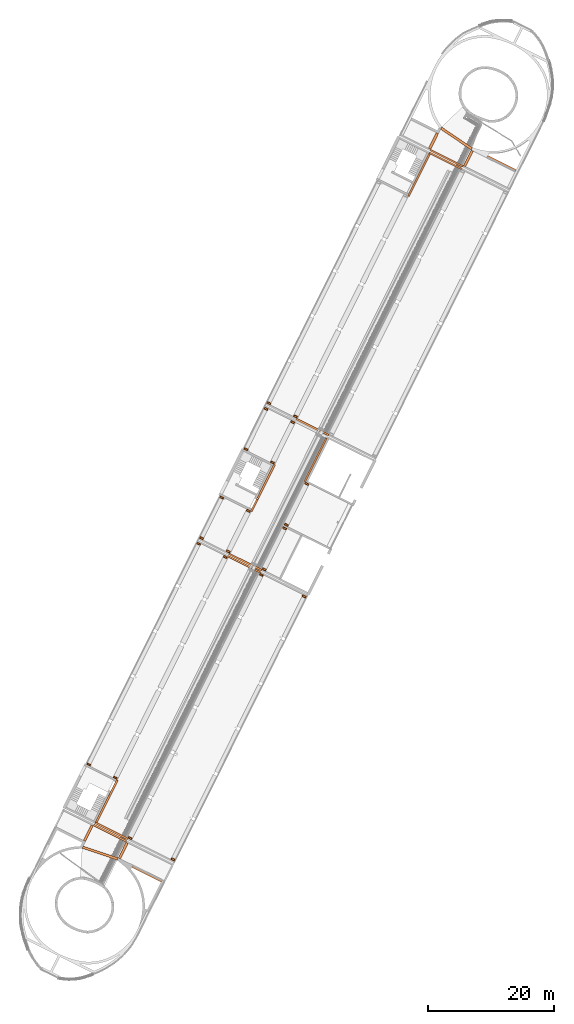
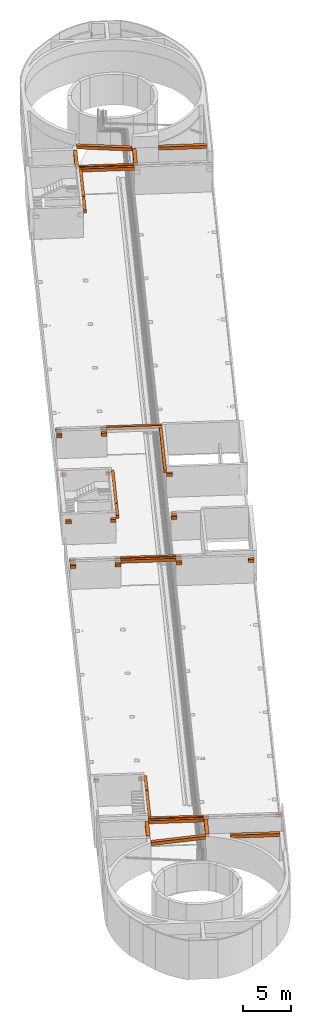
# One storey, part 46 of 47: 41 proxies.
"""IFC2X3 building model written with IfcOpenShell, lengths in metres."""

from ifc_helpers import new_model, entity, si_unit, converted_unit, derived_unit, direction, frame, frame_2d, origin, origin_2d_with_axis, place, context, subcontext, project, spatial, polyline, circle_curve, parameter, trimmed, segment, composite_curve, rectangle, outline, extrude, source, transform, mapped, material, element, save


model = new_model("IFC2X3")

# Units and contexts
model_context = context("Model", 3, precision=1e-05, world=origin(), true_north=direction((0.894925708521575, 0.446215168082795)))
context_of_model = context(None, 3, precision=1e-05, world=origin(), true_north=direction((0.894925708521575, 0.446215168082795)))
body_context = subcontext(model_context, "Body", "Model", "MODEL_VIEW")
ifc_project = project(units=[si_unit("LENGTHUNIT", "METRE"), si_unit("AREAUNIT", "SQUARE_METRE"), si_unit("VOLUMEUNIT", "CUBIC_METRE"), converted_unit("PLANEANGLEUNIT", "DEGREE", entity("IfcRatioMeasure", 0.0174532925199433), si_unit("PLANEANGLEUNIT", "RADIAN"), dimensions=[0, 0, 0, 0, 0, 0, 0]), si_unit("MASSUNIT", "GRAM", prefix="KILO"), si_unit("TIMEUNIT", "SECOND"), si_unit("FREQUENCYUNIT", "HERTZ"), si_unit("THERMODYNAMICTEMPERATUREUNIT", "DEGREE_CELSIUS"), derived_unit("THERMALTRANSMITTANCEUNIT", [(si_unit("MASSUNIT", "GRAM", prefix="KILO"), 1), (si_unit("THERMODYNAMICTEMPERATUREUNIT", "KELVIN"), -1), (si_unit("TIMEUNIT", "SECOND"), -3)]), derived_unit("VOLUMETRICFLOWRATEUNIT", [(si_unit("LENGTHUNIT", "METRE"), 3), (si_unit("TIMEUNIT", "SECOND"), -1)]), si_unit("ELECTRICCURRENTUNIT", "AMPERE"), si_unit("ELECTRICVOLTAGEUNIT", "VOLT"), si_unit("POWERUNIT", "WATT"), si_unit("FORCEUNIT", "NEWTON", prefix="KILO"), si_unit("ILLUMINANCEUNIT", "LUX"), si_unit("LUMINOUSFLUXUNIT", "LUMEN"), si_unit("LUMINOUSINTENSITYUNIT", "CANDELA"), si_unit("PRESSUREUNIT", "PASCAL")], contexts=[model_context, context_of_model])

# Site, building, storey
site_placement = place(None, frame((218.228324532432, 584.720189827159, 0.0), z_axis=(0.0, 0.0, 1.0), x_axis=(0.446215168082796, 0.894925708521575, 0.0)))
site = spatial("IfcSite", under=ifc_project, at=site_placement, Name="Default", CompositionType="ELEMENT")
building_placement = place(site_placement, origin())
building = spatial("IfcBuilding", under=site, at=building_placement, CompositionType="ELEMENT")
storey_placement = place(building_placement, frame((0.0, 0.0, 4.69)))
storey = spatial("IfcBuildingStorey", under=building, at=storey_placement, Name="1 - Piano Primo", CompositionType="ELEMENT", Elevation=4.69)

# Proxies
ifc_material = material(Name="Calcestruzzo, gettato in opera")
shared_shape_1 = source(origin(), body_context, "Body", "SweptSolid", [
    extrude(rectangle(XDim=0.300000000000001, YDim=0.6, at=frame_2d((0.0, 5.27355936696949e-16), x_axis=(1.0, 0.0))), frame((0.150000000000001, 0.300000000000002, 0.0), z_axis=(0.0, 0.0, 1.0), x_axis=(-1.0, 0.0, 0.0)), (0.0, 0.0, 1.0), 0.4),
])
proxy_1_placement = place(storey_placement, frame((-52.6994493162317, 5.51892100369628, 2.86)))
element("IfcBuildingElementProxy", 1, at=proxy_1_placement, inside=storey, material=ifc_material, Name="Mensola C.A.25:Mensola C.A.", ObjectType="Mensola C.A.", CompositionType="ELEMENT", context=body_context, shape_type="MappedRepresentation", body=[
    mapped(shared_shape_1, transform((0.0, 0.0, 0.0), scale=1.0)),
])
shared_shape_2 = source(origin(), body_context, "Body", "SweptSolid", [
    extrude(rectangle(XDim=0.300000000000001, YDim=0.6, at=frame_2d((0.0, 5.27355936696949e-16), x_axis=(1.0, 0.0))), frame((0.150000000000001, 0.300000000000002, 0.0), z_axis=(0.0, 0.0, 1.0), x_axis=(-1.0, 0.0, 0.0)), (0.0, 0.0, 1.0), 0.4),
])
proxy_2_placement = place(storey_placement, frame((-13.4843716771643, 5.51892100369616, 2.86)))
element("IfcBuildingElementProxy", 2, at=proxy_2_placement, inside=storey, material=ifc_material, Name="Mensola C.A.30:Mensola C.A.", ObjectType="Mensola C.A.", CompositionType="ELEMENT", context=body_context, shape_type="MappedRepresentation", body=[
    mapped(shared_shape_2, transform((0.0, 0.0, 0.0), scale=1.0)),
])
shared_shape_3 = source(origin(), body_context, "Body", "SweptSolid", [
    extrude(rectangle(XDim=0.300000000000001, YDim=0.6, at=frame_2d((0.0, 5.27355936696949e-16), x_axis=(1.0, 0.0))), frame((0.150000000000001, 0.300000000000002, 0.0), z_axis=(0.0, 0.0, 1.0), x_axis=(-1.0, 0.0, 0.0)), (0.0, 0.0, 1.0), 0.4),
])
proxy_3_placement = place(storey_placement, frame((3.314214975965, 5.5189210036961, 2.86)))
element("IfcBuildingElementProxy", 3, at=proxy_3_placement, inside=storey, material=ifc_material, Name="Mensola C.A.31:Mensola C.A.", ObjectType="Mensola C.A.", CompositionType="ELEMENT", context=body_context, shape_type="MappedRepresentation", body=[
    mapped(shared_shape_3, transform((0.0, 0.0, 0.0), scale=1.0)),
])
shared_shape_4 = source(origin(), body_context, "Body", "SweptSolid", [
    extrude(rectangle(XDim=0.300000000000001, YDim=0.6, at=frame_2d((0.0, 5.27355936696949e-16), x_axis=(1.0, 0.0))), frame((0.150000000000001, 0.300000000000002, 0.0), z_axis=(0.0, 0.0, 1.0), x_axis=(-1.0, 0.0, 0.0)), (0.0, 0.0, 1.0), 0.4),
])
proxy_4_placement = place(storey_placement, frame((11.4942149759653, 5.51892100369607, 2.86)))
element("IfcBuildingElementProxy", 4, at=proxy_4_placement, inside=storey, material=ifc_material, Name="Mensola C.A.32:Mensola C.A.", ObjectType="Mensola C.A.", CompositionType="ELEMENT", context=body_context, shape_type="MappedRepresentation", body=[
    mapped(shared_shape_4, transform((0.0, 0.0, 0.0), scale=1.0)),
])
shared_shape_5 = source(origin(), body_context, "Body", "SweptSolid", [
    extrude(rectangle(XDim=0.300000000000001, YDim=0.6, at=frame_2d((0.0, 5.27355936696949e-16), x_axis=(1.0, 0.0))), frame((0.150000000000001, 0.300000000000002, 0.0), z_axis=(0.0, 0.0, 1.0), x_axis=(-1.0, 0.0, 0.0)), (0.0, 0.0, 1.0), 0.4),
])
proxy_5_placement = place(storey_placement, frame((10.4942149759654, 5.51892100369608, 2.86)))
element("IfcBuildingElementProxy", 5, at=proxy_5_placement, inside=storey, material=ifc_material, Name="Mensola C.A.33:Mensola C.A.", ObjectType="Mensola C.A.", CompositionType="ELEMENT", context=body_context, shape_type="MappedRepresentation", body=[
    mapped(shared_shape_5, transform((0.0, 0.0, 0.0), scale=1.0)),
])
shared_shape_6 = source(origin(), body_context, "Body", "SweptSolid", [
    extrude(rectangle(XDim=0.300000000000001, YDim=0.6, at=frame_2d((0.0, 5.27355936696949e-16), x_axis=(1.0, 0.0))), frame((0.150000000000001, 0.300000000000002, 0.0), z_axis=(0.0, 0.0, 1.0), x_axis=(-1.0, 0.0, 0.0)), (0.0, 0.0, 1.0), 0.4),
])
proxy_6_placement = place(storey_placement, frame((-13.4843716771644, -13.2010789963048, 2.86)))
element("IfcBuildingElementProxy", 6, at=proxy_6_placement, inside=storey, material=ifc_material, Name="Mensola C.A.40:Mensola C.A.", ObjectType="Mensola C.A.", CompositionType="ELEMENT", context=body_context, shape_type="MappedRepresentation", body=[
    mapped(shared_shape_6, transform((0.0, 0.0, 0.0), scale=1.0)),
])
shared_shape_7 = source(origin(), body_context, "Body", "SweptSolid", [
    extrude(rectangle(XDim=0.300000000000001, YDim=0.6, at=frame_2d((0.0, 5.27355936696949e-16), x_axis=(1.0, 0.0))), frame((0.150000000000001, 0.300000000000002, 0.0), z_axis=(0.0, 0.0, 1.0), x_axis=(-1.0, 0.0, 0.0)), (0.0, 0.0, 1.0), 0.4),
])
proxy_7_placement = place(storey_placement, frame((-13.4843716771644, -5.60107899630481, 2.86)))
element("IfcBuildingElementProxy", 7, at=proxy_7_placement, inside=storey, material=ifc_material, Name="Mensola C.A.41:Mensola C.A.", ObjectType="Mensola C.A.", CompositionType="ELEMENT", context=body_context, shape_type="MappedRepresentation", body=[
    mapped(shared_shape_7, transform((0.0, 0.0, 0.0), scale=1.0)),
])
shared_shape_8 = source(origin(), body_context, "Body", "SweptSolid", [
    extrude(rectangle(XDim=0.300000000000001, YDim=0.6, at=frame_2d((0.0, 5.27355936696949e-16), x_axis=(1.0, 0.0))), frame((0.150000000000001, 0.300000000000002, 0.0), z_axis=(0.0, 0.0, 1.0), x_axis=(-1.0, 0.0, 0.0)), (0.0, 0.0, 1.0), 0.4),
])
proxy_8_placement = place(storey_placement, frame((-13.4843716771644, 0.798921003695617, 2.86)))
element("IfcBuildingElementProxy", 8, at=proxy_8_placement, inside=storey, material=ifc_material, Name="Mensola C.A.42:Mensola C.A.", ObjectType="Mensola C.A.", CompositionType="ELEMENT", context=body_context, shape_type="MappedRepresentation", body=[
    mapped(shared_shape_8, transform((0.0, 0.0, 0.0), scale=1.0)),
])
shared_shape_9 = source(origin(), body_context, "Body", "SweptSolid", [
    extrude(rectangle(XDim=0.300000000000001, YDim=0.6, at=frame_2d((0.0, 5.27355936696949e-16), x_axis=(1.0, 0.0))), frame((0.150000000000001, 0.300000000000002, 0.0), z_axis=(0.0, 0.0, 1.0), x_axis=(-1.0, 0.0, 0.0)), (0.0, 0.0, 1.0), 0.4),
])
proxy_9_placement = place(storey_placement, frame((-12.4843716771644, 0.798921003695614, 2.86)))
element("IfcBuildingElementProxy", 9, at=proxy_9_placement, inside=storey, material=ifc_material, Name="Mensola C.A.43:Mensola C.A.", ObjectType="Mensola C.A.", CompositionType="ELEMENT", context=body_context, shape_type="MappedRepresentation", body=[
    mapped(shared_shape_9, transform((0.0, 0.0, 0.0), scale=1.0)),
])
shared_shape_10 = source(origin(), body_context, "Body", "SweptSolid", [
    extrude(rectangle(XDim=0.300000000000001, YDim=0.6, at=frame_2d((0.0, 5.27355936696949e-16), x_axis=(1.0, 0.0))), frame((0.150000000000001, 0.300000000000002, 0.0), z_axis=(0.0, 0.0, 1.0), x_axis=(-1.0, 0.0, 0.0)), (0.0, 0.0, 1.0), 0.4),
])
proxy_10_placement = place(storey_placement, frame((-12.4843716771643, 5.51892100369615, 2.86)))
element("IfcBuildingElementProxy", 10, at=proxy_10_placement, inside=storey, material=ifc_material, Name="Mensola C.A.44:Mensola C.A.", ObjectType="Mensola C.A.", CompositionType="ELEMENT", context=body_context, shape_type="MappedRepresentation", body=[
    mapped(shared_shape_10, transform((0.0, 0.0, 0.0), scale=1.0)),
])
shared_shape_11 = source(origin(), body_context, "Body", "SweptSolid", [
    extrude(rectangle(XDim=0.300000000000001, YDim=0.6, at=frame_2d((0.0, 5.27355936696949e-16), x_axis=(1.0, 0.0))), frame((0.150000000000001, 0.300000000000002, 0.0), z_axis=(0.0, 0.0, 1.0), x_axis=(-1.0, 0.0, 0.0)), (0.0, 0.0, 1.0), 0.4),
])
proxy_11_placement = place(storey_placement, frame((-5.28578502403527, 5.51892100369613, 2.86)))
element("IfcBuildingElementProxy", 11, at=proxy_11_placement, inside=storey, material=ifc_material, Name="Mensola C.A.45:Mensola C.A.", ObjectType="Mensola C.A.", CompositionType="ELEMENT", context=body_context, shape_type="MappedRepresentation", body=[
    mapped(shared_shape_11, transform((0.0, 0.0, 0.0), scale=1.0)),
])
shared_shape_12 = source(origin(), body_context, "Body", "SweptSolid", [
    extrude(rectangle(XDim=0.300000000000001, YDim=0.6, at=frame_2d((0.0, 5.27355936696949e-16), x_axis=(1.0, 0.0))), frame((0.150000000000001, 0.300000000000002, 0.0), z_axis=(0.0, 0.0, 1.0), x_axis=(-1.0, 0.0, 0.0)), (0.0, 0.0, 1.0), 0.4),
])
proxy_12_placement = place(storey_placement, frame((-5.28578502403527, 0.798921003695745, 2.86)))
element("IfcBuildingElementProxy", 12, at=proxy_12_placement, inside=storey, material=ifc_material, Name="Mensola C.A.46:Mensola C.A.", ObjectType="Mensola C.A.", CompositionType="ELEMENT", context=body_context, shape_type="MappedRepresentation", body=[
    mapped(shared_shape_12, transform((0.0, 0.0, 0.0), scale=1.0)),
])
shared_shape_13 = source(origin(), body_context, "Body", "SweptSolid", [
    extrude(rectangle(XDim=0.300000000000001, YDim=0.6, at=frame_2d((0.0, 5.27355936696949e-16), x_axis=(1.0, 0.0))), frame((0.150000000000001, 0.300000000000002, 0.0), z_axis=(0.0, 0.0, 1.0), x_axis=(-1.0, 0.0, 0.0)), (0.0, 0.0, 1.0), 0.4),
])
proxy_13_placement = place(storey_placement, frame((-60.2297493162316, -5.60107899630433, 2.86)))
element("IfcBuildingElementProxy", 13, at=proxy_13_placement, inside=storey, material=ifc_material, Name="Mensola C.A.47:Mensola C.A.", ObjectType="Mensola C.A.", CompositionType="ELEMENT", context=body_context, shape_type="MappedRepresentation", body=[
    mapped(shared_shape_13, transform((0.0, 0.0, 0.0), scale=1.0)),
])
shared_shape_14 = source(origin(), body_context, "Body", "SweptSolid", [
    extrude(rectangle(XDim=0.300000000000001, YDim=0.6, at=frame_2d((0.0, 5.27355936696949e-16), x_axis=(1.0, 0.0))), frame((0.150000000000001, 0.300000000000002, 0.0), z_axis=(0.0, 0.0, 1.0), x_axis=(-1.0, 0.0, 0.0)), (0.0, 0.0, 1.0), 0.4),
])
proxy_14_placement = place(storey_placement, frame((-60.2297493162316, -13.2010789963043, 2.86)))
element("IfcBuildingElementProxy", 14, at=proxy_14_placement, inside=storey, material=ifc_material, Name="Mensola C.A.48:Mensola C.A.", ObjectType="Mensola C.A.", CompositionType="ELEMENT", context=body_context, shape_type="MappedRepresentation", body=[
    mapped(shared_shape_14, transform((0.0, 0.0, 0.0), scale=1.0)),
])
shared_shape_15 = source(origin(), body_context, "Body", "SweptSolid", [
    extrude(rectangle(XDim=0.300000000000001, YDim=0.6, at=frame_2d((0.0, 5.27355936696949e-16), x_axis=(1.0, 0.0))), frame((0.150000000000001, 0.300000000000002, 0.0), z_axis=(0.0, 0.0, 1.0), x_axis=(-1.0, 0.0, 0.0)), (0.0, 0.0, 1.0), 0.4),
])
proxy_15_placement = place(storey_placement, frame((-52.6994493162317, 0.798921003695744, 2.86)))
element("IfcBuildingElementProxy", 15, at=proxy_15_placement, inside=storey, material=ifc_material, Name="Mensola C.A.49:Mensola C.A.", ObjectType="Mensola C.A.", CompositionType="ELEMENT", context=body_context, shape_type="MappedRepresentation", body=[
    mapped(shared_shape_15, transform((0.0, 0.0, 0.0), scale=1.0)),
])
shared_shape_16 = source(origin(), body_context, "Body", "SweptSolid", [
    extrude(rectangle(XDim=0.300000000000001, YDim=0.6, at=origin_2d_with_axis()), frame((0.150000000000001, 0.300000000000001, 0.0), z_axis=(0.0, 0.0, 1.0), x_axis=(-1.0, 0.0, 0.0)), (0.0, 0.0, 1.0), 0.4),
])
proxy_16_placement = place(storey_placement, frame((-12.4843716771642, -5.60107899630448, 2.86)))
element("IfcBuildingElementProxy", 16, at=proxy_16_placement, inside=storey, material=ifc_material, Name="Mensola C.A.50:Mensola C.A.", ObjectType="Mensola C.A.", CompositionType="ELEMENT", context=body_context, shape_type="MappedRepresentation", body=[
    mapped(shared_shape_16, transform((0.0, 0.0, 0.0), scale=1.0)),
])
shared_shape_17 = source(origin(), body_context, "Body", "SweptSolid", [
    extrude(rectangle(XDim=0.300000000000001, YDim=0.6, at=origin_2d_with_axis()), frame((0.150000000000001, 0.300000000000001, 0.0), z_axis=(0.0, 0.0, 1.0), x_axis=(-1.0, 0.0, 0.0)), (0.0, 0.0, 1.0), 0.4),
])
proxy_17_placement = place(storey_placement, frame((-5.18437167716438, -5.6010789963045, 2.86)))
element("IfcBuildingElementProxy", 17, at=proxy_17_placement, inside=storey, material=ifc_material, Name="Mensola C.A.51:Mensola C.A.", ObjectType="Mensola C.A.", CompositionType="ELEMENT", context=body_context, shape_type="MappedRepresentation", body=[
    mapped(shared_shape_17, transform((0.0, 0.0, 0.0), scale=1.0)),
])
shared_shape_18 = source(origin(), body_context, "Body", "SweptSolid", [
    extrude(rectangle(XDim=0.300000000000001, YDim=0.6, at=frame_2d((0.0, 5.27355936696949e-16), x_axis=(1.0, 0.0))), frame((0.150000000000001, 0.300000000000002, 0.0), z_axis=(0.0, 0.0, 1.0), x_axis=(-1.0, 0.0, 0.0)), (0.0, 0.0, 1.0), 0.4),
])
proxy_18_placement = place(storey_placement, frame((11.4942149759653, 0.798921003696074, 2.86)))
element("IfcBuildingElementProxy", 18, at=proxy_18_placement, inside=storey, material=ifc_material, Name="Mensola C.A.52:Mensola C.A.", ObjectType="Mensola C.A.", CompositionType="ELEMENT", context=body_context, shape_type="MappedRepresentation", body=[
    mapped(shared_shape_18, transform((0.0, 0.0, 0.0), scale=1.0)),
])
shared_shape_19 = source(origin(), body_context, "Body", "SweptSolid", [
    extrude(rectangle(XDim=0.300000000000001, YDim=0.6, at=frame_2d((0.0, 5.27355936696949e-16), x_axis=(1.0, 0.0))), frame((0.150000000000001, 0.300000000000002, 0.0), z_axis=(0.0, 0.0, 1.0), x_axis=(-1.0, 0.0, 0.0)), (0.0, 0.0, 1.0), 0.4),
])
proxy_19_placement = place(storey_placement, frame((3.31421497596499, 0.798921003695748, 2.86)))
element("IfcBuildingElementProxy", 19, at=proxy_19_placement, inside=storey, material=ifc_material, Name="Mensola C.A.53:Mensola C.A.", ObjectType="Mensola C.A.", CompositionType="ELEMENT", context=body_context, shape_type="MappedRepresentation", body=[
    mapped(shared_shape_19, transform((0.0, 0.0, 0.0), scale=1.0)),
])
shared_shape_20 = source(origin(), body_context, "Body", "SweptSolid", [
    extrude(rectangle(XDim=0.300000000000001, YDim=0.6, at=frame_2d((0.0, 5.27355936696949e-16), x_axis=(1.0, 0.0))), frame((0.150000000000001, 0.300000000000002, 0.0), z_axis=(0.0, 0.0, 1.0), x_axis=(-1.0, 0.0, 0.0)), (0.0, 0.0, 1.0), 0.4),
])
proxy_20_placement = place(storey_placement, frame((10.4942149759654, 0.798921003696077, 2.86)))
element("IfcBuildingElementProxy", 20, at=proxy_20_placement, inside=storey, material=ifc_material, Name="Mensola C.A.54:Mensola C.A.", ObjectType="Mensola C.A.", CompositionType="ELEMENT", context=body_context, shape_type="MappedRepresentation", body=[
    mapped(shared_shape_20, transform((0.0, 0.0, 0.0), scale=1.0)),
])
shared_shape_21 = source(origin(), body_context, "Body", "SweptSolid", [
    extrude(rectangle(XDim=0.4, YDim=2.76999999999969, at=frame_2d((0.0, -4.32986979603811e-15), x_axis=(1.0, 0.0))), frame((1.38499999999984, 0.200000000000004, 0.0), z_axis=(0.0, 0.0, 1.0), x_axis=(0.0, 1.0, 0.0)), (0.0, 0.0, 1.0), 0.4),
])
proxy_21_placement = place(storey_placement, frame((-63.7294493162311, 0.798921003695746, 3.12)))
element("IfcBuildingElementProxy", 21, at=proxy_21_placement, inside=storey, material=ifc_material, Name="Telaio strutturale 8:Telaio strutturale 4", ObjectType="Telaio strutturale 4", CompositionType="ELEMENT", context=body_context, shape_type="MappedRepresentation", body=[
    mapped(shared_shape_21, transform((0.0, 0.0, 0.0), scale=1.0)),
])
shared_shape_22 = source(origin(), body_context, "Body", "SweptSolid", [
    extrude(rectangle(XDim=0.4, YDim=2.76999999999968, at=origin_2d_with_axis()), frame((1.38499999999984, 0.200000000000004, 0.0), z_axis=(0.0, 0.0, 1.0), x_axis=(0.0, -1.0, 0.0)), (0.0, 0.0, 1.0), 0.4),
])
proxy_22_placement = place(storey_placement, frame((-63.7294493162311, -5.40107899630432, 3.12)))
element("IfcBuildingElementProxy", 22, at=proxy_22_placement, inside=storey, material=ifc_material, Name="Telaio strutturale 9:Telaio strutturale 5", ObjectType="Telaio strutturale 5", CompositionType="ELEMENT", context=body_context, shape_type="MappedRepresentation", body=[
    mapped(shared_shape_22, transform((0.0, 0.0, 0.0), scale=1.0)),
])
shared_shape_23 = source(origin(), body_context, "Body", "SweptSolid", [
    extrude(rectangle(XDim=0.4, YDim=2.77000000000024, at=origin_2d_with_axis()), frame((1.38500000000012, 0.200000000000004, 0.0), z_axis=(0.0, 0.0, 1.0), x_axis=(0.0, 1.0, 0.0)), (0.0, 0.0, 1.0), 0.4),
])
proxy_23_placement = place(storey_placement, frame((59.2659369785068, 0.798921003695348, 3.12)))
element("IfcBuildingElementProxy", 23, at=proxy_23_placement, inside=storey, material=ifc_material, Name="Telaio strutturale 20:Telaio strutturale 16", ObjectType="Telaio strutturale 16", CompositionType="ELEMENT", context=body_context, shape_type="MappedRepresentation", body=[
    mapped(shared_shape_23, transform((0.0, 0.0, 0.0), scale=1.0)),
])
shared_shape_24 = source(origin(), body_context, "Body", "SweptSolid", [
    extrude(rectangle(XDim=2.77000000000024, YDim=0.4, at=frame_2d((0.0, -5.41233724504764e-16), x_axis=(1.0, 0.0))), frame((1.38500000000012, 0.200000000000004, 0.0), z_axis=(0.0, 0.0, 1.0), x_axis=(-1.0, 0.0, 0.0)), (0.0, 0.0, 1.0), 0.4),
])
proxy_24_placement = place(storey_placement, frame((59.2659369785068, -5.40107899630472, 3.12)))
element("IfcBuildingElementProxy", 24, at=proxy_24_placement, inside=storey, material=ifc_material, Name="Telaio strutturale 21:Telaio strutturale 17", ObjectType="Telaio strutturale 17", CompositionType="ELEMENT", context=body_context, shape_type="MappedRepresentation", body=[
    mapped(shared_shape_24, transform((0.0, 0.0, 0.0), scale=1.0)),
])
shared_shape_25 = source(origin(), body_context, "Body", "SweptSolid", [
    extrude(rectangle(XDim=7.77999999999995, YDim=0.3, at=origin_2d_with_axis()), frame((3.88999999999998, 0.15, 0.0)), (0.0, 0.0, 1.0), 0.4),
])
proxy_25_placement = place(storey_placement, frame((3.01421497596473, -5.00107899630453, 3.12)))
element("IfcBuildingElementProxy", 25, at=proxy_25_placement, inside=storey, material=ifc_material, Name="Mensola allungata4:Mensola allungata", ObjectType="Mensola allungata", CompositionType="ELEMENT", context=body_context, shape_type="MappedRepresentation", body=[
    mapped(shared_shape_25, transform((0.0, 0.0, 0.0), scale=1.0)),
])
shared_shape_26 = source(origin(), body_context, "Body", "SweptSolid", [
    extrude(outline(polyline([(-4.15029332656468, -0.15), (4.15029332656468, -0.15), (4.15029332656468, 0.15), (-4.15029332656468, 0.15), (-4.15029332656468, -0.15)]), holes=[composite_curve([segment(trimmed(circle_curve(frame_2d((-1.90970667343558, 0.0), x_axis=(1.0, 0.0)), 0.085), [parameter(180.0)], [parameter(0.0)], True, "PARAMETER"), False, "CONTINUOUS"), segment(trimmed(circle_curve(frame_2d((-1.90970667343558, 0.0), x_axis=(1.0, 0.0)), 0.085), [parameter(3.56222124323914e-13)], [parameter(180.0)], True, "PARAMETER"), False, "CONTINUOUS")], self_intersect=False)]), frame((4.15029332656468, 0.15, 0.0)), (0.0, 0.0, 1.0), 0.4),
])
proxy_26_placement = place(storey_placement, frame((-4.98637167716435, 0.498921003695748, 3.12)))
element("IfcBuildingElementProxy", 26, at=proxy_26_placement, inside=storey, material=ifc_material, Name="Mensola allungata5:Mensola allungata", ObjectType="Mensola allungata", CompositionType="ELEMENT", context=body_context, shape_type="MappedRepresentation", body=[
    mapped(shared_shape_26, transform((0.0, 0.0, 0.0), scale=1.0)),
])
shared_shape_27 = source(origin(), body_context, "Body", "SweptSolid", [
    extrude(rectangle(XDim=0.300000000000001, YDim=5.80000000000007, at=frame_2d((0.0, -6.66133814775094e-16), x_axis=(1.0, 0.0))), frame((0.150000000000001, 2.90000000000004, 0.0)), (0.0, 0.0, 1.0), 0.4),
])
proxy_27_placement = place(storey_placement, frame((-60.9594493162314, -5.00107899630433, 3.12)))
element("IfcBuildingElementProxy", 27, at=proxy_27_placement, inside=storey, material=ifc_material, Name="Trave setto8:Trave setto", ObjectType="Trave setto", CompositionType="ELEMENT", context=body_context, shape_type="MappedRepresentation", body=[
    mapped(shared_shape_27, transform((0.0, 0.0, 0.0), scale=1.0)),
])
shared_shape_28 = source(origin(), body_context, "Body", "SweptSolid", [
    extrude(rectangle(XDim=0.300000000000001, YDim=5.80000000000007, at=frame_2d((0.0, -6.66133814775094e-16), x_axis=(1.0, 0.0))), frame((0.150000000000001, 2.90000000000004, 0.0)), (0.0, 0.0, 1.0), 0.4),
])
proxy_28_placement = place(storey_placement, frame((-60.5294493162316, -5.00107899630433, 3.12)))
element("IfcBuildingElementProxy", 28, at=proxy_28_placement, inside=storey, material=ifc_material, Name="Trave setto9:Trave setto", ObjectType="Trave setto", CompositionType="ELEMENT", context=body_context, shape_type="MappedRepresentation", body=[
    mapped(shared_shape_28, transform((0.0, 0.0, 0.0), scale=1.0)),
])
shared_shape_29 = source(origin(), body_context, "Body", "SweptSolid", [
    extrude(rectangle(XDim=0.300000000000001, YDim=5.80000000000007, at=frame_2d((0.0, -6.66133814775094e-16), x_axis=(1.0, 0.0))), frame((0.150000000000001, 2.90000000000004, 0.0)), (0.0, 0.0, 1.0), 0.4),
])
proxy_29_placement = place(storey_placement, frame((-13.1843716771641, -5.00107899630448, 3.12)))
element("IfcBuildingElementProxy", 29, at=proxy_29_placement, inside=storey, material=ifc_material, Name="Trave setto10:Trave setto", ObjectType="Trave setto", CompositionType="ELEMENT", context=body_context, shape_type="MappedRepresentation", body=[
    mapped(shared_shape_29, transform((0.0, 0.0, 0.0), scale=1.0)),
])
shared_shape_30 = source(origin(), body_context, "Body", "SweptSolid", [
    extrude(rectangle(XDim=0.300000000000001, YDim=5.80000000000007, at=frame_2d((0.0, -6.66133814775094e-16), x_axis=(1.0, 0.0))), frame((0.150000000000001, 2.90000000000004, 0.0)), (0.0, 0.0, 1.0), 0.4),
])
proxy_30_placement = place(storey_placement, frame((-12.7843716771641, -5.00107899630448, 3.12)))
element("IfcBuildingElementProxy", 30, at=proxy_30_placement, inside=storey, material=ifc_material, Name="Trave setto11:Trave setto", ObjectType="Trave setto", CompositionType="ELEMENT", context=body_context, shape_type="MappedRepresentation", body=[
    mapped(shared_shape_30, transform((0.0, 0.0, 0.0), scale=1.0)),
])
shared_shape_31 = source(origin(), body_context, "Body", "SweptSolid", [
    extrude(rectangle(XDim=0.300000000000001, YDim=5.80000000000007, at=frame_2d((0.0, -6.66133814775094e-16), x_axis=(1.0, 0.0))), frame((0.150000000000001, 2.90000000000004, 0.0)), (0.0, 0.0, 1.0), 0.4),
])
proxy_31_placement = place(storey_placement, frame((11.1942149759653, -5.00107899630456, 3.12)))
element("IfcBuildingElementProxy", 31, at=proxy_31_placement, inside=storey, material=ifc_material, Name="Trave setto13:Trave setto", ObjectType="Trave setto", CompositionType="ELEMENT", context=body_context, shape_type="MappedRepresentation", body=[
    mapped(shared_shape_31, transform((0.0, 0.0, 0.0), scale=1.0)),
])
shared_shape_32 = source(origin(), body_context, "Body", "SweptSolid", [
    extrude(rectangle(XDim=0.300000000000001, YDim=5.80000000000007, at=frame_2d((0.0, -6.66133814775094e-16), x_axis=(1.0, 0.0))), frame((0.150000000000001, 2.90000000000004, 0.0)), (0.0, 0.0, 1.0), 0.4),
])
proxy_32_placement = place(storey_placement, frame((58.9659369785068, -5.00107899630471, 3.12)))
element("IfcBuildingElementProxy", 32, at=proxy_32_placement, inside=storey, material=ifc_material, Name="Trave setto14:Trave setto", ObjectType="Trave setto", CompositionType="ELEMENT", context=body_context, shape_type="MappedRepresentation", body=[
    mapped(shared_shape_32, transform((0.0, 0.0, 0.0), scale=1.0)),
])
shared_shape_33 = source(origin(), body_context, "Body", "SweptSolid", [
    extrude(rectangle(XDim=0.300000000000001, YDim=5.80000000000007, at=frame_2d((0.0, -6.66133814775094e-16), x_axis=(1.0, 0.0))), frame((0.150000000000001, 2.90000000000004, 0.0)), (0.0, 0.0, 1.0), 0.4),
])
proxy_33_placement = place(storey_placement, frame((58.5359369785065, -5.00107899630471, 3.12)))
element("IfcBuildingElementProxy", 33, at=proxy_33_placement, inside=storey, material=ifc_material, Name="Trave setto15:Trave setto", ObjectType="Trave setto", CompositionType="ELEMENT", context=body_context, shape_type="MappedRepresentation", body=[
    mapped(shared_shape_33, transform((0.0, 0.0, 0.0), scale=1.0)),
])
shared_shape_34 = source(origin(), body_context, "Body", "SweptSolid", [
    extrude(outline(polyline([(-0.587967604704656, -2.90000000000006), (-0.184436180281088, -2.90000000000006), (0.587967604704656, 2.90000000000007), (0.184436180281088, 2.90000000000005), (-0.587967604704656, -2.90000000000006)])), frame((0.587967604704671, 2.90000000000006, 0.0)), (0.0, 0.0, 1.0), 0.4),
])
proxy_34_placement = place(storey_placement, frame((62.0358148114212, -5.00107899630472, 3.12)))
element("IfcBuildingElementProxy", 34, at=proxy_34_placement, inside=storey, material=ifc_material, Name="Travi in opera 2:Travi in opera 1", ObjectType="Travi in opera 1", CompositionType="ELEMENT", context=body_context, shape_type="MappedRepresentation", body=[
    mapped(shared_shape_34, transform((0.0, 0.0, 0.0), scale=1.0)),
])
shared_shape_35 = source(origin(), body_context, "Body", "SweptSolid", [
    extrude(outline(polyline([(0.208453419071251, -2.89999999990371), (0.612439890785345, -2.89999999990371), (-0.208453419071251, 2.89999999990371), (-0.612439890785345, 2.89999999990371), (0.208453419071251, -2.89999999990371)])), frame((0.612439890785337, 2.89999999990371, 0.0)), (0.0, 0.0, 1.0), 0.4),
])
proxy_35_placement = place(storey_placement, frame((-64.9543290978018, -5.00107899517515, 3.12)))
element("IfcBuildingElementProxy", 35, at=proxy_35_placement, inside=storey, material=ifc_material, Name="Trave in opera 2:Trave in opera 1", ObjectType="Trave in opera 1", CompositionType="ELEMENT", context=body_context, shape_type="MappedRepresentation", body=[
    mapped(shared_shape_35, transform((0.0, 0.0, 0.0), scale=1.0)),
])
shared_shape_36 = source(origin(), body_context, "Body", "SweptSolid", [
    extrude(outline(polyline([(-3.76499999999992, -0.15), (3.76499999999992, -0.15), (3.76499999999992, 0.15), (-3.76499999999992, 0.15), (-3.76499999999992, -0.15)]), holes=[composite_curve([segment(trimmed(circle_curve(frame_2d((1.07499999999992, 0.0), x_axis=(1.0, 0.0)), 0.085), [parameter(180.0)], [parameter(0.0)], True, "PARAMETER"), False, "CONTINUOUS"), segment(trimmed(circle_curve(frame_2d((1.07499999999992, 0.0), x_axis=(1.0, 0.0)), 0.085), [parameter(3.56222124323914e-13)], [parameter(180.0)], True, "PARAMETER"), False, "CONTINUOUS")], self_intersect=False)]), frame((3.76499999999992, 0.15, 0.0)), (0.0, 0.0, 1.0), 0.4),
])
proxy_36_placement = place(storey_placement, frame((-60.2294493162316, 0.498921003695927, 3.12)))
element("IfcBuildingElementProxy", 36, at=proxy_36_placement, inside=storey, material=ifc_material, Name="Mensola allungata6:Mensola allungata", ObjectType="Mensola allungata", CompositionType="ELEMENT", context=body_context, shape_type="MappedRepresentation", body=[
    mapped(shared_shape_36, transform((0.0, 0.0, 0.0), scale=1.0)),
])
shared_shape_37 = source(origin(), body_context, "Body", "SweptSolid", [
    extrude(rectangle(XDim=0.300000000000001, YDim=0.6, at=frame_2d((0.0, 5.27355936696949e-16), x_axis=(1.0, 0.0))), frame((0.150000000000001, 0.300000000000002, 0.0), z_axis=(0.0, 0.0, 1.0), x_axis=(-1.0, 0.0, 0.0)), (0.0, 0.0, 1.0), 0.4),
])
proxy_37_placement = place(storey_placement, frame((-4.58437167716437, -5.60107899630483, 2.86)))
element("IfcBuildingElementProxy", 37, at=proxy_37_placement, inside=storey, material=ifc_material, Name="Mensola C.A.55:Mensola C.A.", ObjectType="Mensola C.A.", CompositionType="ELEMENT", context=body_context, shape_type="MappedRepresentation", body=[
    mapped(shared_shape_37, transform((0.0, 0.0, 0.0), scale=1.0)),
])
shared_shape_38 = source(origin(), body_context, "Body", "SweptSolid", [
    extrude(rectangle(XDim=0.300000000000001, YDim=0.6, at=frame_2d((0.0, 5.27355936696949e-16), x_axis=(1.0, 0.0))), frame((0.150000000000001, 0.300000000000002, 0.0), z_axis=(0.0, 0.0, 1.0), x_axis=(-1.0, 0.0, 0.0)), (0.0, 0.0, 1.0), 0.4),
])
proxy_38_placement = place(storey_placement, frame((2.71421497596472, -5.60107899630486, 2.86)))
element("IfcBuildingElementProxy", 38, at=proxy_38_placement, inside=storey, material=ifc_material, Name="Mensola C.A.56:Mensola C.A.", ObjectType="Mensola C.A.", CompositionType="ELEMENT", context=body_context, shape_type="MappedRepresentation", body=[
    mapped(shared_shape_38, transform((0.0, 0.0, 0.0), scale=1.0)),
])
shared_shape_39 = source(origin(), body_context, "Body", "SweptSolid", [
    extrude(rectangle(XDim=5.02012216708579, YDim=0.4, at=frame_2d((0.0, 5.41233724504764e-16), x_axis=(1.0, 0.0))), frame((2.51006108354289, 0.200000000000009, 0.0), z_axis=(0.0, 0.0, 1.0), x_axis=(-1.0, 0.0, 0.0)), (0.0, 0.0, 1.0), 0.4),
])
proxy_39_placement = place(storey_placement, frame((62.4359369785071, -12.8010789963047, 3.12), z_axis=(0.0, 0.0, 1.0), x_axis=(0.0, 1.0, 0.0)))
element("IfcBuildingElementProxy", 39, at=proxy_39_placement, inside=storey, material=ifc_material, Name="Telaio strutturale 7:Telaio strutturale 17", ObjectType="Telaio strutturale 17", CompositionType="ELEMENT", context=body_context, shape_type="MappedRepresentation", body=[
    mapped(shared_shape_39, transform((0.0, 0.0, 0.0), scale=1.0)),
])
shared_shape_40 = source(origin(), body_context, "Body", "SweptSolid", [
    extrude(rectangle(XDim=0.4, YDim=5.19000552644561, at=frame_2d((-5.41233724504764e-16, 0.0), x_axis=(1.0, 0.0))), frame((2.5950027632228, 0.200000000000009, 0.0), z_axis=(0.0, 0.0, 1.0), x_axis=(0.0, -1.0, 0.0)), (0.0, 0.0, 1.0), 0.4),
])
proxy_40_placement = place(storey_placement, frame((-63.7294493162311, -12.8010845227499, 3.12), z_axis=(0.0, 0.0, 1.0), x_axis=(0.0, 1.0, 0.0)))
element("IfcBuildingElementProxy", 40, at=proxy_40_placement, inside=storey, material=ifc_material, Name="Telaio strutturale 18:Telaio strutturale 5", ObjectType="Telaio strutturale 5", CompositionType="ELEMENT", context=body_context, shape_type="MappedRepresentation", body=[
    mapped(shared_shape_40, transform((0.0, 0.0, 0.0), scale=1.0)),
])
shared_shape_41 = source(origin(), body_context, "Body", "SweptSolid", [
    extrude(outline(polyline([(-3.76499999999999, -0.15), (3.76499999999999, -0.15), (3.76499999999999, 0.15), (-3.76499999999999, 0.15), (-3.76499999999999, -0.15)]), holes=[composite_curve([segment(trimmed(circle_curve(frame_2d((-1.27500000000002, 0.0), x_axis=(1.0, 0.0)), 0.085), [parameter(180.0)], [parameter(0.0)], True, "PARAMETER"), False, "CONTINUOUS"), segment(trimmed(circle_curve(frame_2d((-1.27500000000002, 0.0), x_axis=(1.0, 0.0)), 0.085), [parameter(3.56222124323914e-13)], [parameter(180.0)], True, "PARAMETER"), False, "CONTINUOUS")], self_intersect=False)]), frame((3.76499999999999, 0.15, 0.0)), (0.0, 0.0, 1.0), 0.4),
])
proxy_41_placement = place(storey_placement, frame((51.0059369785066, 0.498921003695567, 3.12)))
element("IfcBuildingElementProxy", 41, at=proxy_41_placement, inside=storey, material=ifc_material, Name="Mensola allungata7:Mensola allungata", ObjectType="Mensola allungata", CompositionType="ELEMENT", context=body_context, shape_type="MappedRepresentation", body=[
    mapped(shared_shape_41, transform((0.0, 0.0, 0.0), scale=1.0)),
])

save(model, "model.ifc")
